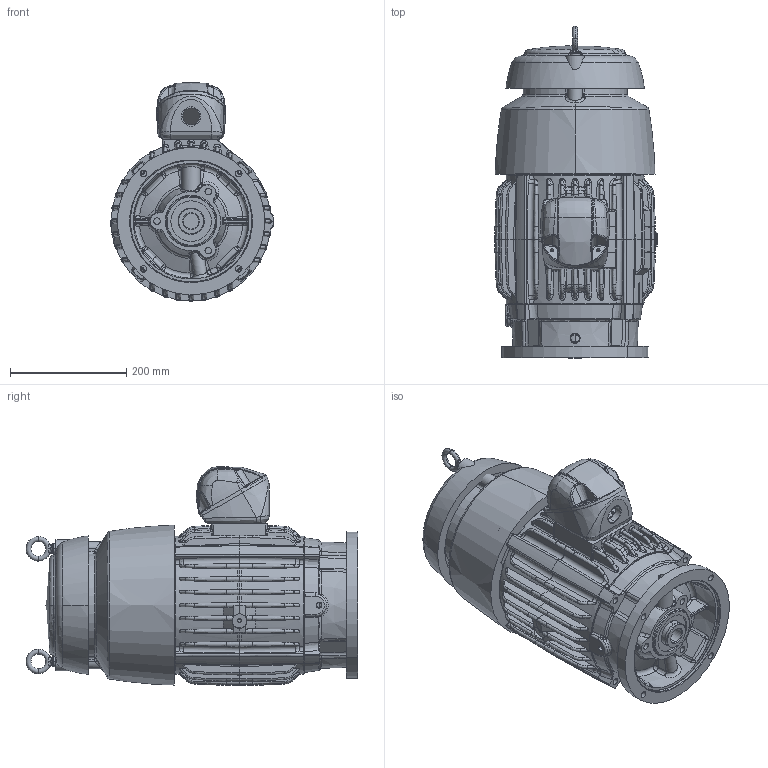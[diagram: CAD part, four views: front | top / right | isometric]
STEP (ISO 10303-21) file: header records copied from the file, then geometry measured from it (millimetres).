
FILE_DESCRIPTION((''),'2;1');
FILE_NAME('210HP_TCVS_ASM','2018-09-17T12:22:56',('emd2341'),('Nidec Motor Corporation'),'CREO PARAMETRIC BY PTC INC, 2018020','CREO PARAMETRIC BY PTC INC, 2018020','');
FILE_SCHEMA(('CONFIG_CONTROL_DESIGN'));
Products named in the file (10): 0457170; 0076666; 0075615; 0987940; 0163863; 0168483-CVR; 0076490-CAP; 0123806; SHAFT; 210HP_TCVS_ASM
Assembly tree (10 placements, depth 2):
  210HP_TCVS_ASM
    0457170
    0076666
    0075615
    0987940
    0163863
    0168483-CVR
    0076490-CAP
    0123806  x2
    SHAFT
Bounding box: 279.43 x 570.56 x 376.71 mm (x, y, z)
Volume: 15434170.3 mm3; surface area: 1486043.6 mm2
Topology: 10 solids, 36 shells, 2461 faces, 6028 edges, 3601 vertices
Faces by surface type: bspline 1123, cylinder 420, plane 411, torus 221, cone 204, sphere 81, extrusion 1
Entity records: 116575 total; most frequent: CARTESIAN_POINT 67421, ORIENTED_EDGE 11756, DIRECTION 8167, EDGE_CURVE 5927, AXIS2_PLACEMENT_3D 3570, VERTEX_POINT 3562, B_SPLINE_CURVE_WITH_KNOTS 2680, EDGE_LOOP 2566
